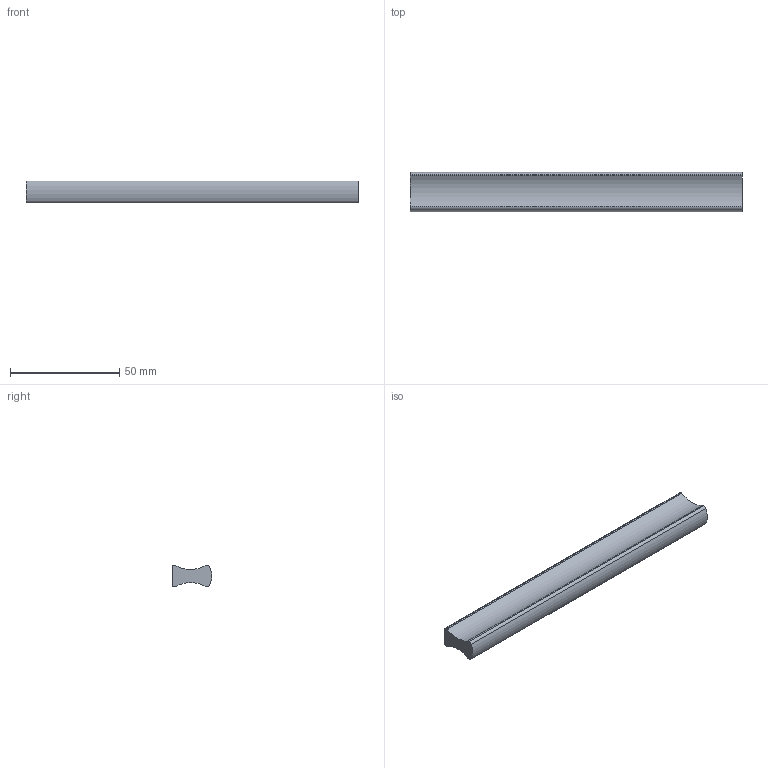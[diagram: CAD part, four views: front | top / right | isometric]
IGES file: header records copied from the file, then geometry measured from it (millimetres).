
Start section: Data from Parasolid IGES Translator 15.0.47, Copyright(c) 2006 Siemens P LM Software. All Rights Reserved.
Global section: file name: 9190437.igs; native system:  By UGS Corp.; preprocessor: XPlus GENERIC/IGES 3.0; author: Noname; organization: Noname; date: 20151216.182217; units: millimetre
Bounding box: 152 x 17.96 x 10 mm (x, y, z)
Surface area: 8881.8 mm2 (no closed solid volume)
Topology: 0 solids, 0 shells, 21 faces, 90 edges, 84 vertices
Faces by surface type: revolution 14, extrusion 7
